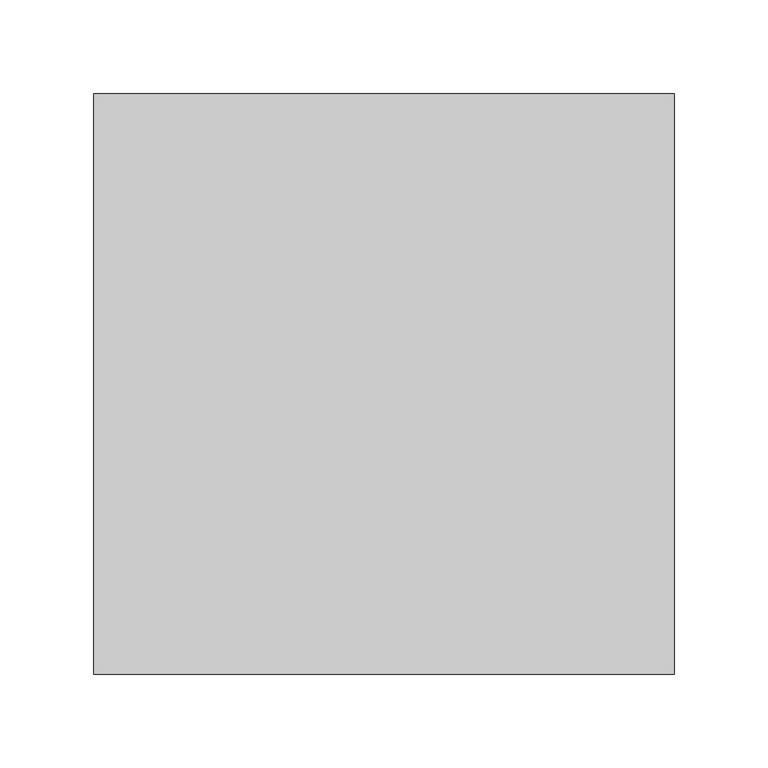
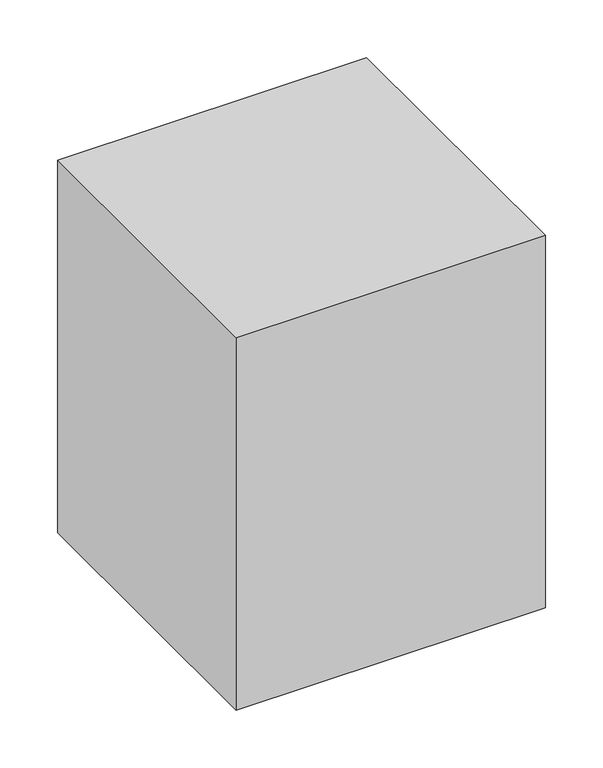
"""IFC4 building model written with IfcOpenShell, lengths in millimetres: proxy geometry, ▲GM_Зона обслуживания : Тип."""

from ifc_helpers import new_model, si_unit, origin, origin_with_axes, place, context, project, spatial, polyline, outline, extrude, source, transform, mapped, element, save


def generic_models_fd5a0a99(model_context):
    return source(origin(), model_context, "Body", "SweptSolid", [
        extrude(outline(polyline([(310.0, -310.0), (0.0, -310.0), (0.0, 0.0), (310.0, 0.0), (310.0, -310.0)])), origin_with_axes(), (0.0, 0.0, 1.0), 395.0),
    ])


if __name__ == "__main__":
    model = new_model("IFC4")
    model_context = context("Model", 3, world=origin())
    ifc_project = project(units=[si_unit("LENGTHUNIT", "METRE", prefix="MILLI")], contexts=[model_context])
    site = spatial("IfcSite", under=ifc_project)
    building = spatial("IfcBuilding", under=site)
    placement = place(None, origin())
    generic_models_shape = generic_models_fd5a0a99(model_context)
    element("IfcBuildingElementProxy", 1, Name="▲GM_Зона обслуживания : Тип", ObjectType="▲GM_Зона обслуживания : Тип", at=placement, inside=building, context=model_context, shape_type="MappedRepresentation", body=[
        mapped(generic_models_shape, transform((0.0, 0.0, 0.0), x_axis=(1.0, 0.0, 0.0), y_axis=(0.0, 1.0, 0.0), z_axis=(0.0, 0.0, 1.0))),
    ])
    save(model, "model.ifc")
